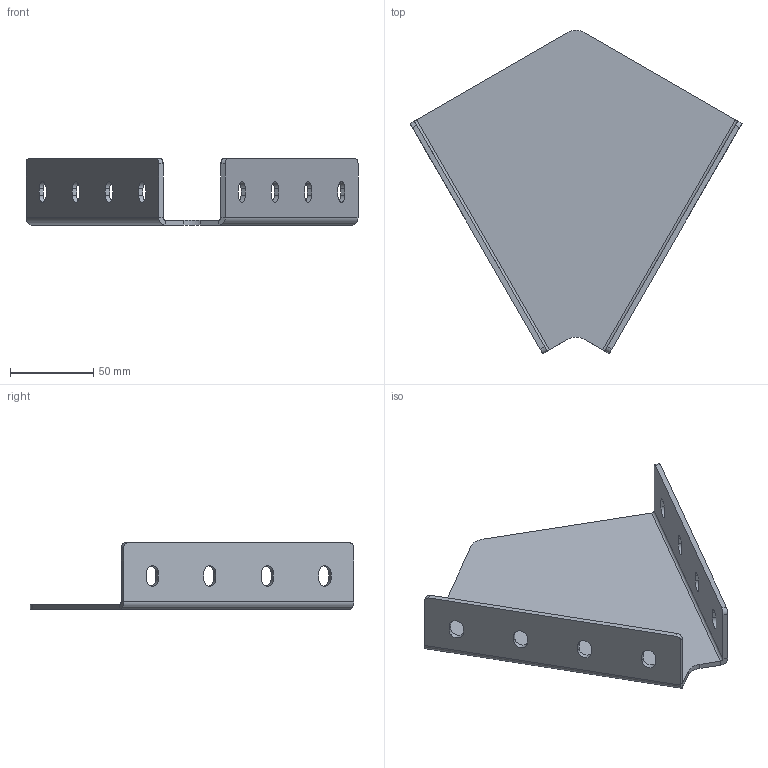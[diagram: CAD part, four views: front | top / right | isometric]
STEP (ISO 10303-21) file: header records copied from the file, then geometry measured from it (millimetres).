
FILE_DESCRIPTION (( 'STEP AP214' ), '1' );
FILE_NAME ('4016060.STEP', '2018-02-28T11:11:47', ( '' ), ( '' ), 'SwSTEP 2.0', 'SolidWorks 2014', '' );
FILE_SCHEMA (( 'AUTOMOTIVE_DESIGN' ));
Length unit declared in the file: millimetre
Products named in the file (2): 4016060
Bounding box: 200 x 194.75 x 40 mm (x, y, z)
Volume: 98593.6 mm3; surface area: 68760 mm2
Topology: 1 solids, 1 shells, 62 faces, 164 edges, 104 vertices
Faces by surface type: plane 36, cylinder 26
Entity records: 1993 total; most frequent: DIRECTION 344, CARTESIAN_POINT 332, ORIENTED_EDGE 328, EDGE_CURVE 164, AXIS2_PLACEMENT_3D 116, LINE 112, VECTOR 112, VERTEX_POINT 104
